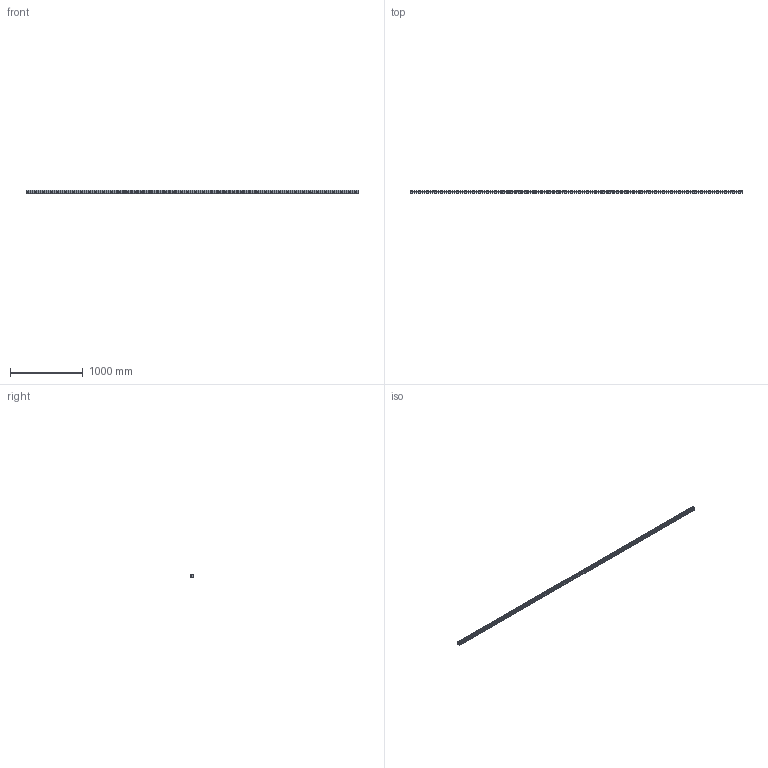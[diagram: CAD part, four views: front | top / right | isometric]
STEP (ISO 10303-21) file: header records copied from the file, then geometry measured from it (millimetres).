
FILE_DESCRIPTION(('CATIA V5 STEP Exchange'),'2;1');
FILE_NAME('C:\Users\14044\Desktop\HSV45R1SS+4560L\HSV45_RAIL_4560L.stp','2015-12-04T10:10:34+00:00',('none'),('none'),'Version 5-6 Release 2012','CATIA V5 STEP AP203','none');
FILE_SCHEMA(('CONFIG_CONTROL_DESIGN'));
Length unit declared in the file: millimetre
Products named in the file (1): HSV45_RAIL_4560L
Bounding box: 4560 x 38 x 45 mm (x, y, z)
Volume: 6415404.8 mm3; surface area: 861594.2 mm2
Topology: 1 solids, 1 shells, 254 faces, 624 edges, 551 vertices
Faces by surface type: cylinder 180, plane 74
Entity records: 7007 total; most frequent: CARTESIAN_POINT 1295, ORIENTED_EDGE 1248, DIRECTION 862, EDGE_CURVE 624, AXIS2_PLACEMENT_3D 480, VERTEX_POINT 416, EDGE_LOOP 386, CIRCLE 360
